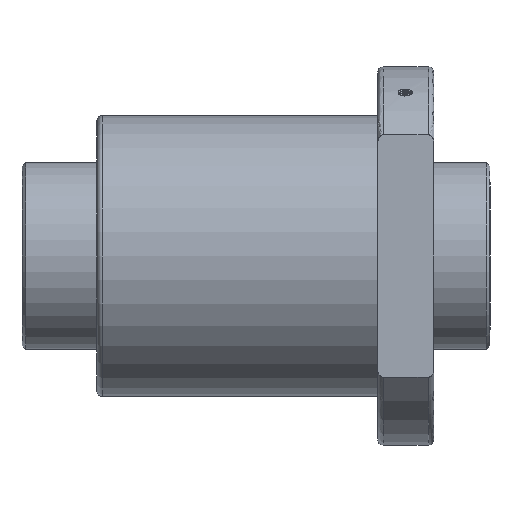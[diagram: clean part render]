
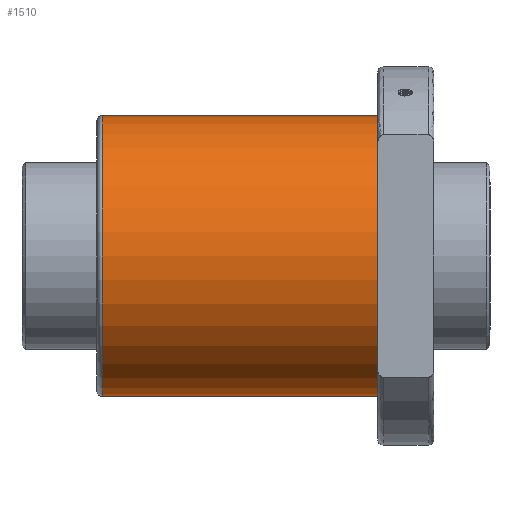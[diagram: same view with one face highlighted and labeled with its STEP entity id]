
A CAD part, front view. The second image highlights one B-rep face of the part: STEP entity #1510.
In plain terms, the highlighted cylindrical face has radius 75 mm (diameter 150 mm), a full revolution.
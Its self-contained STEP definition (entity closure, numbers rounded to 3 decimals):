
#53 = DIRECTION ( 'NONE',  ( 0., 1., 0. ) ) ;
#301 = DIRECTION ( 'NONE',  ( 1., 0., 0. ) ) ;
#308 = EDGE_LOOP ( 'NONE', ( #2784 ) ) ;
#354 = CARTESIAN_POINT ( 'NONE',  ( -207., 75., 0. ) ) ;
#370 = AXIS2_PLACEMENT_3D ( 'NONE', #2608, #2789, #1809 ) ;
#528 = CARTESIAN_POINT ( 'NONE',  ( -207., 0., 0. ) ) ;
#609 = FACE_OUTER_BOUND ( 'NONE', #953, .T. ) ;
#623 = FACE_OUTER_BOUND ( 'NONE', #308, .T. ) ;
#629 = AXIS2_PLACEMENT_3D ( 'NONE', #528, #301, #3021 ) ;
#796 = EDGE_CURVE ( 'NONE', #1543, #1543, #1442, .T. ) ;
#953 = EDGE_LOOP ( 'NONE', ( #2755 ) ) ;
#1442 = CIRCLE ( 'NONE', #3157, 75. ) ;
#1510 = ADVANCED_FACE ( 'NONE', ( #623, #609 ), #1617, .T. ) ;
#1543 = VERTEX_POINT ( 'NONE', #2598 ) ;
#1575 = VERTEX_POINT ( 'NONE', #354 ) ;
#1617 = CYLINDRICAL_SURFACE ( 'NONE', #370, 75. ) ;
#1809 = DIRECTION ( 'NONE',  ( 0., 1., 0. ) ) ;
#1827 = EDGE_CURVE ( 'NONE', #1575, #1575, #2602, .T. ) ;
#2311 = CARTESIAN_POINT ( 'NONE',  ( -60., 0., 0. ) ) ;
#2598 = CARTESIAN_POINT ( 'NONE',  ( -60., 75., 0. ) ) ;
#2602 = CIRCLE ( 'NONE', #629, 75. ) ;
#2608 = CARTESIAN_POINT ( 'NONE',  ( -240., 0., 0. ) ) ;
#2755 = ORIENTED_EDGE ( 'NONE', *, *, #1827, .T. ) ;
#2784 = ORIENTED_EDGE ( 'NONE', *, *, #796, .F. ) ;
#2789 = DIRECTION ( 'NONE',  ( 1., 0., 0. ) ) ;
#3021 = DIRECTION ( 'NONE',  ( 0., 1., 0. ) ) ;
#3081 = DIRECTION ( 'NONE',  ( 1., 0., 0. ) ) ;
#3157 = AXIS2_PLACEMENT_3D ( 'NONE', #2311, #3081, #53 ) ;
